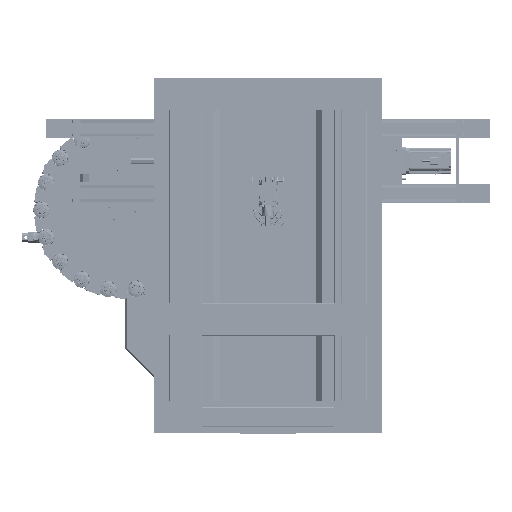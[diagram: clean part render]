
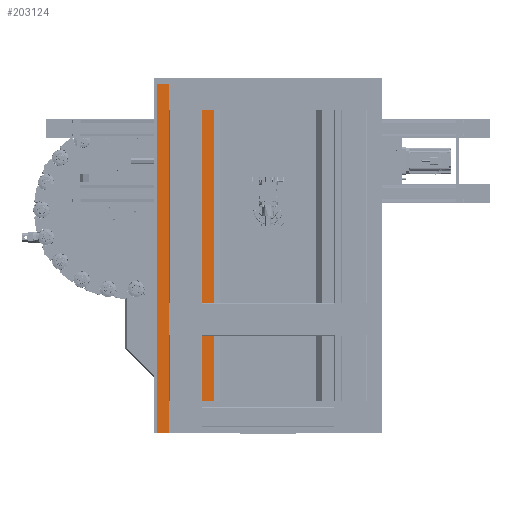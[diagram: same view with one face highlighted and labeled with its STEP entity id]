
A CAD part, front view. The second image highlights one B-rep face of the part: STEP entity #203124.
In plain terms, the highlighted planar face has unit normal (0, -1, 0).
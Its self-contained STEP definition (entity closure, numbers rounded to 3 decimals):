
#28261 = DIRECTION ( 'NONE',  ( 1., 0., 0. ) ) ;
#36369 = DIRECTION ( 'NONE',  ( 0., 1., 0. ) ) ;
#38963 = VECTOR ( 'NONE', #28261, 1000. ) ;
#40041 = CARTESIAN_POINT ( 'NONE',  ( -350., 0., -545. ) ) ;
#67691 = ORIENTED_EDGE ( 'NONE', *, *, #471847, .F. ) ;
#71627 = CARTESIAN_POINT ( 'NONE',  ( -341., 0., -545. ) ) ;
#88262 = CARTESIAN_POINT ( 'NONE',  ( -341., 0., 527. ) ) ;
#89989 = VERTEX_POINT ( 'NONE', #416763 ) ;
#94677 = LINE ( 'NONE', #40041, #160615 ) ;
#100135 = ORIENTED_EDGE ( 'NONE', *, *, #589484, .F. ) ;
#121020 = DIRECTION ( 'NONE',  ( 0., 0., -1. ) ) ;
#124727 = EDGE_CURVE ( 'NONE', #89989, #301592, #94677, .T. ) ;
#142278 = CARTESIAN_POINT ( 'NONE',  ( 0., 0., 0. ) ) ;
#148266 = CARTESIAN_POINT ( 'NONE',  ( -165., 0., 527. ) ) ;
#160615 = VECTOR ( 'NONE', #573601, 1000. ) ;
#178906 = LINE ( 'NONE', #88262, #38963 ) ;
#203124 = ADVANCED_FACE ( 'NONE', ( #598798 ), #604607, .F. ) ;
#224739 = AXIS2_PLACEMENT_3D ( 'NONE', #142278, #36369, #241259 ) ;
#233423 = ORIENTED_EDGE ( 'NONE', *, *, #445227, .F. ) ;
#241259 = DIRECTION ( 'NONE',  ( 0., 0., 1. ) ) ;
#241576 = CARTESIAN_POINT ( 'NONE',  ( -341., 0., 527. ) ) ;
#279142 = CARTESIAN_POINT ( 'NONE',  ( -341., 0., -545. ) ) ;
#301592 = VERTEX_POINT ( 'NONE', #279142 ) ;
#349772 = DIRECTION ( 'NONE',  ( 0., 0., 1. ) ) ;
#350801 = VECTOR ( 'NONE', #121020, 1000. ) ;
#405618 = LINE ( 'NONE', #71627, #438662 ) ;
#406057 = VERTEX_POINT ( 'NONE', #148266 ) ;
#416763 = CARTESIAN_POINT ( 'NONE',  ( -165., 0., -545. ) ) ;
#438662 = VECTOR ( 'NONE', #349772, 1000. ) ;
#441329 = LINE ( 'NONE', #645175, #350801 ) ;
#445227 = EDGE_CURVE ( 'NONE', #406057, #89989, #441329, .T. ) ;
#471847 = EDGE_CURVE ( 'NONE', #509949, #406057, #178906, .T. ) ;
#509949 = VERTEX_POINT ( 'NONE', #241576 ) ;
#573601 = DIRECTION ( 'NONE',  ( -1., 0., 0. ) ) ;
#589484 = EDGE_CURVE ( 'NONE', #301592, #509949, #405618, .T. ) ;
#598798 = FACE_OUTER_BOUND ( 'NONE', #601310, .T. ) ;
#601310 = EDGE_LOOP ( 'NONE', ( #67691, #100135, #602752, #233423 ) ) ;
#602752 = ORIENTED_EDGE ( 'NONE', *, *, #124727, .F. ) ;
#604607 = PLANE ( 'NONE',  #224739 ) ;
#645175 = CARTESIAN_POINT ( 'NONE',  ( -165., 0., 545. ) ) ;
